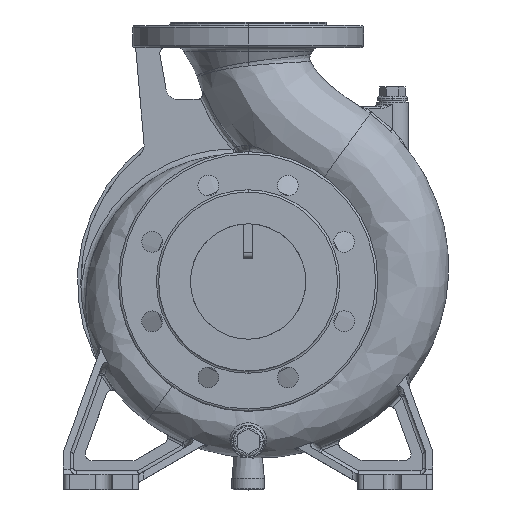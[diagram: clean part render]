
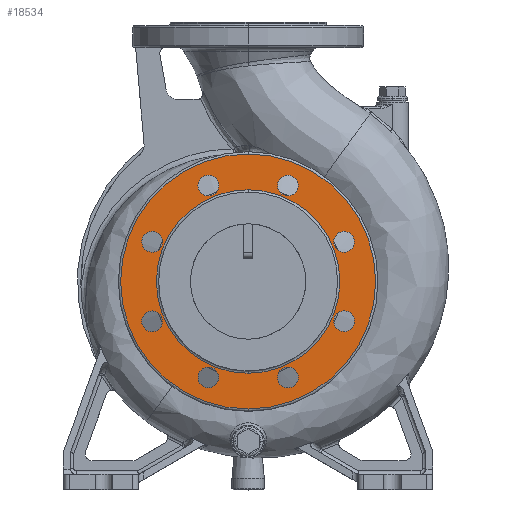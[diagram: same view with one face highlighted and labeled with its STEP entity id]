
A CAD part, top view. The second image highlights one B-rep face of the part: STEP entity #18534.
In plain terms, the highlighted planar face has unit normal (0, 0, 1).
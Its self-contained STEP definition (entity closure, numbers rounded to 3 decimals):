
#6761=CARTESIAN_POINT('',(0.,0.,122.));
#6762=DIRECTION('',(0.,0.,-1.));
#6763=DIRECTION('',(0.,-1.,0.));
#6764=AXIS2_PLACEMENT_3D('',#6761,#6762,#6763);
#6769=CARTESIAN_POINT('',(0.,0.,122.));
#6770=DIRECTION('',(0.,0.,-1.));
#6771=DIRECTION('',(0.,1.,0.));
#6772=AXIS2_PLACEMENT_3D('',#6769,#6770,#6771);
#6777=CARTESIAN_POINT('',(0.,0.,122.));
#6778=DIRECTION('',(0.,0.,1.));
#6779=DIRECTION('',(0.,1.,0.));
#6780=AXIS2_PLACEMENT_3D('',#6777,#6778,#6779);
#6785=CARTESIAN_POINT('',(0.,0.,122.));
#6786=DIRECTION('',(0.,0.,1.));
#6787=DIRECTION('',(0.,-1.,0.));
#6788=AXIS2_PLACEMENT_3D('',#6785,#6786,#6787);
#6793=CARTESIAN_POINT('',(-34.442,83.149,122.));
#6794=DIRECTION('',(0.,0.,1.));
#6795=DIRECTION('',(1.,0.,0.));
#6796=AXIS2_PLACEMENT_3D('',#6793,#6794,#6795);
#6801=CARTESIAN_POINT('',(-34.442,83.149,122.));
#6802=DIRECTION('',(0.,0.,1.));
#6803=DIRECTION('',(-1.,0.,0.));
#6804=AXIS2_PLACEMENT_3D('',#6801,#6802,#6803);
#6809=CARTESIAN_POINT('',(-83.149,34.442,122.));
#6810=DIRECTION('',(0.,0.,1.));
#6811=DIRECTION('',(0.707,0.707,0.));
#6812=AXIS2_PLACEMENT_3D('',#6809,#6810,#6811);
#6817=CARTESIAN_POINT('',(-83.149,34.442,122.));
#6818=DIRECTION('',(0.,0.,1.));
#6819=DIRECTION('',(-0.707,-0.707,0.));
#6820=AXIS2_PLACEMENT_3D('',#6817,#6818,#6819);
#6825=CARTESIAN_POINT('',(-83.149,-34.442,122.));
#6826=DIRECTION('',(0.,0.,1.));
#6827=DIRECTION('',(0.,1.,0.));
#6828=AXIS2_PLACEMENT_3D('',#6825,#6826,#6827);
#6833=CARTESIAN_POINT('',(-83.149,-34.442,122.));
#6834=DIRECTION('',(0.,0.,1.));
#6835=DIRECTION('',(0.,-1.,0.));
#6836=AXIS2_PLACEMENT_3D('',#6833,#6834,#6835);
#6841=CARTESIAN_POINT('',(-34.442,-83.149,122.));
#6842=DIRECTION('',(0.,0.,1.));
#6843=DIRECTION('',(-0.707,0.707,0.));
#6844=AXIS2_PLACEMENT_3D('',#6841,#6842,#6843);
#6849=CARTESIAN_POINT('',(-34.442,-83.149,122.));
#6850=DIRECTION('',(0.,0.,1.));
#6851=DIRECTION('',(0.707,-0.707,0.));
#6852=AXIS2_PLACEMENT_3D('',#6849,#6850,#6851);
#6857=CARTESIAN_POINT('',(34.442,-83.149,122.));
#6858=DIRECTION('',(0.,0.,1.));
#6859=DIRECTION('',(-1.,0.,0.));
#6860=AXIS2_PLACEMENT_3D('',#6857,#6858,#6859);
#6865=CARTESIAN_POINT('',(34.442,-83.149,122.));
#6866=DIRECTION('',(0.,0.,1.));
#6867=DIRECTION('',(1.,0.,0.));
#6868=AXIS2_PLACEMENT_3D('',#6865,#6866,#6867);
#6873=CARTESIAN_POINT('',(83.149,-34.442,122.));
#6874=DIRECTION('',(0.,0.,1.));
#6875=DIRECTION('',(-0.707,-0.707,0.));
#6876=AXIS2_PLACEMENT_3D('',#6873,#6874,#6875);
#6881=CARTESIAN_POINT('',(83.149,-34.442,122.));
#6882=DIRECTION('',(0.,0.,1.));
#6883=DIRECTION('',(0.707,0.707,0.));
#6884=AXIS2_PLACEMENT_3D('',#6881,#6882,#6883);
#6889=CARTESIAN_POINT('',(83.149,34.442,122.));
#6890=DIRECTION('',(0.,0.,1.));
#6891=DIRECTION('',(0.,-1.,0.));
#6892=AXIS2_PLACEMENT_3D('',#6889,#6890,#6891);
#6897=CARTESIAN_POINT('',(83.149,34.442,122.));
#6898=DIRECTION('',(0.,0.,1.));
#6899=DIRECTION('',(0.,1.,0.));
#6900=AXIS2_PLACEMENT_3D('',#6897,#6898,#6899);
#6905=CARTESIAN_POINT('',(34.442,83.149,122.));
#6906=DIRECTION('',(0.,0.,1.));
#6907=DIRECTION('',(0.707,-0.707,0.));
#6908=AXIS2_PLACEMENT_3D('',#6905,#6906,#6907);
#6913=CARTESIAN_POINT('',(34.442,83.149,122.));
#6914=DIRECTION('',(0.,0.,1.));
#6915=DIRECTION('',(-0.707,0.707,0.));
#6916=AXIS2_PLACEMENT_3D('',#6913,#6914,#6915);
#8629=CARTESIAN_POINT('',(0.,-79.5,122.));
#8630=CARTESIAN_POINT('',(0.,79.5,122.));
#8631=VERTEX_POINT('',#8629);
#8632=VERTEX_POINT('',#8630);
#8633=CARTESIAN_POINT('',(0.,110.5,122.));
#8634=CARTESIAN_POINT('',(0.,-110.5,122.));
#8635=VERTEX_POINT('',#8633);
#8636=VERTEX_POINT('',#8634);
#9273=CARTESIAN_POINT('',(-25.442,83.149,122.));
#9274=CARTESIAN_POINT('',(-43.442,83.149,122.));
#9275=VERTEX_POINT('',#9273);
#9276=VERTEX_POINT('',#9274);
#9281=CARTESIAN_POINT('',(-76.785,40.805,122.));
#9282=CARTESIAN_POINT('',(-89.513,28.078,122.));
#9283=VERTEX_POINT('',#9281);
#9284=VERTEX_POINT('',#9282);
#9289=CARTESIAN_POINT('',(-83.149,-25.442,122.));
#9290=CARTESIAN_POINT('',(-83.149,-43.442,122.));
#9291=VERTEX_POINT('',#9289);
#9292=VERTEX_POINT('',#9290);
#9297=CARTESIAN_POINT('',(-40.805,-76.785,122.));
#9298=CARTESIAN_POINT('',(-28.078,-89.513,122.));
#9299=VERTEX_POINT('',#9297);
#9300=VERTEX_POINT('',#9298);
#9305=CARTESIAN_POINT('',(25.442,-83.149,122.));
#9306=CARTESIAN_POINT('',(43.442,-83.149,122.));
#9307=VERTEX_POINT('',#9305);
#9308=VERTEX_POINT('',#9306);
#9313=CARTESIAN_POINT('',(76.785,-40.805,122.));
#9314=CARTESIAN_POINT('',(89.513,-28.078,122.));
#9315=VERTEX_POINT('',#9313);
#9316=VERTEX_POINT('',#9314);
#9321=CARTESIAN_POINT('',(83.149,25.442,122.));
#9322=CARTESIAN_POINT('',(83.149,43.442,122.));
#9323=VERTEX_POINT('',#9321);
#9324=VERTEX_POINT('',#9322);
#9329=CARTESIAN_POINT('',(40.805,76.785,122.));
#9330=CARTESIAN_POINT('',(28.078,89.513,122.));
#9331=VERTEX_POINT('',#9329);
#9332=VERTEX_POINT('',#9330);
#18470=CARTESIAN_POINT('',(0.,0.,122.));
#18471=DIRECTION('',(0.,0.,-1.));
#18472=DIRECTION('',(0.,-1.,0.));
#18473=AXIS2_PLACEMENT_3D('',#18470,#18471,#18472);
#18474=PLANE('',#18473);
#18475=ORIENTED_EDGE('',*,*,#18460,.F.);
#18477=ORIENTED_EDGE('',*,*,#18476,.F.);
#18478=EDGE_LOOP('',(#18475,#18477));
#18479=FACE_OUTER_BOUND('',#18478,.F.);
#18481=ORIENTED_EDGE('',*,*,#18480,.F.);
#18483=ORIENTED_EDGE('',*,*,#18482,.F.);
#18484=EDGE_LOOP('',(#18481,#18483));
#18485=FACE_BOUND('',#18484,.F.);
#18487=ORIENTED_EDGE('',*,*,#18486,.T.);
#18489=ORIENTED_EDGE('',*,*,#18488,.T.);
#18490=EDGE_LOOP('',(#18487,#18489));
#18491=FACE_BOUND('',#18490,.F.);
#18493=ORIENTED_EDGE('',*,*,#18492,.T.);
#18495=ORIENTED_EDGE('',*,*,#18494,.T.);
#18496=EDGE_LOOP('',(#18493,#18495));
#18497=FACE_BOUND('',#18496,.F.);
#18499=ORIENTED_EDGE('',*,*,#18498,.T.);
#18501=ORIENTED_EDGE('',*,*,#18500,.T.);
#18502=EDGE_LOOP('',(#18499,#18501));
#18503=FACE_BOUND('',#18502,.F.);
#18505=ORIENTED_EDGE('',*,*,#18504,.T.);
#18507=ORIENTED_EDGE('',*,*,#18506,.T.);
#18508=EDGE_LOOP('',(#18505,#18507));
#18509=FACE_BOUND('',#18508,.F.);
#18511=ORIENTED_EDGE('',*,*,#18510,.T.);
#18513=ORIENTED_EDGE('',*,*,#18512,.T.);
#18514=EDGE_LOOP('',(#18511,#18513));
#18515=FACE_BOUND('',#18514,.F.);
#18517=ORIENTED_EDGE('',*,*,#18516,.T.);
#18519=ORIENTED_EDGE('',*,*,#18518,.T.);
#18520=EDGE_LOOP('',(#18517,#18519));
#18521=FACE_BOUND('',#18520,.F.);
#18523=ORIENTED_EDGE('',*,*,#18522,.T.);
#18525=ORIENTED_EDGE('',*,*,#18524,.T.);
#18526=EDGE_LOOP('',(#18523,#18525));
#18527=FACE_BOUND('',#18526,.F.);
#18529=ORIENTED_EDGE('',*,*,#18528,.T.);
#18531=ORIENTED_EDGE('',*,*,#18530,.T.);
#18532=EDGE_LOOP('',(#18529,#18531));
#18533=FACE_BOUND('',#18532,.F.);
#6765=CIRCLE('',#6764,79.5);
#6773=CIRCLE('',#6772,79.5);
#6781=CIRCLE('',#6780,110.5);
#6789=CIRCLE('',#6788,110.5);
#6797=CIRCLE('',#6796,9.);
#6805=CIRCLE('',#6804,9.);
#6813=CIRCLE('',#6812,9.);
#6821=CIRCLE('',#6820,9.);
#6829=CIRCLE('',#6828,9.);
#6837=CIRCLE('',#6836,9.);
#6845=CIRCLE('',#6844,9.);
#6853=CIRCLE('',#6852,9.);
#6861=CIRCLE('',#6860,9.);
#6869=CIRCLE('',#6868,9.);
#6877=CIRCLE('',#6876,9.);
#6885=CIRCLE('',#6884,9.);
#6893=CIRCLE('',#6892,9.);
#6901=CIRCLE('',#6900,9.);
#6909=CIRCLE('',#6908,9.);
#6917=CIRCLE('',#6916,9.);
#18460=EDGE_CURVE('',#8635,#8636,#6781,.T.);
#18476=EDGE_CURVE('',#8636,#8635,#6789,.T.);
#18480=EDGE_CURVE('',#8631,#8632,#6765,.T.);
#18482=EDGE_CURVE('',#8632,#8631,#6773,.T.);
#18486=EDGE_CURVE('',#9275,#9276,#6797,.T.);
#18488=EDGE_CURVE('',#9276,#9275,#6805,.T.);
#18492=EDGE_CURVE('',#9283,#9284,#6813,.T.);
#18494=EDGE_CURVE('',#9284,#9283,#6821,.T.);
#18498=EDGE_CURVE('',#9291,#9292,#6829,.T.);
#18500=EDGE_CURVE('',#9292,#9291,#6837,.T.);
#18504=EDGE_CURVE('',#9299,#9300,#6845,.T.);
#18506=EDGE_CURVE('',#9300,#9299,#6853,.T.);
#18510=EDGE_CURVE('',#9307,#9308,#6861,.T.);
#18512=EDGE_CURVE('',#9308,#9307,#6869,.T.);
#18516=EDGE_CURVE('',#9315,#9316,#6877,.T.);
#18518=EDGE_CURVE('',#9316,#9315,#6885,.T.);
#18522=EDGE_CURVE('',#9323,#9324,#6893,.T.);
#18524=EDGE_CURVE('',#9324,#9323,#6901,.T.);
#18528=EDGE_CURVE('',#9331,#9332,#6909,.T.);
#18530=EDGE_CURVE('',#9332,#9331,#6917,.T.);
#18534=ADVANCED_FACE('',(#18479,#18485,#18491,#18497,#18503,#18509,#18515,
#18521,#18527,#18533),#18474,.F.);
